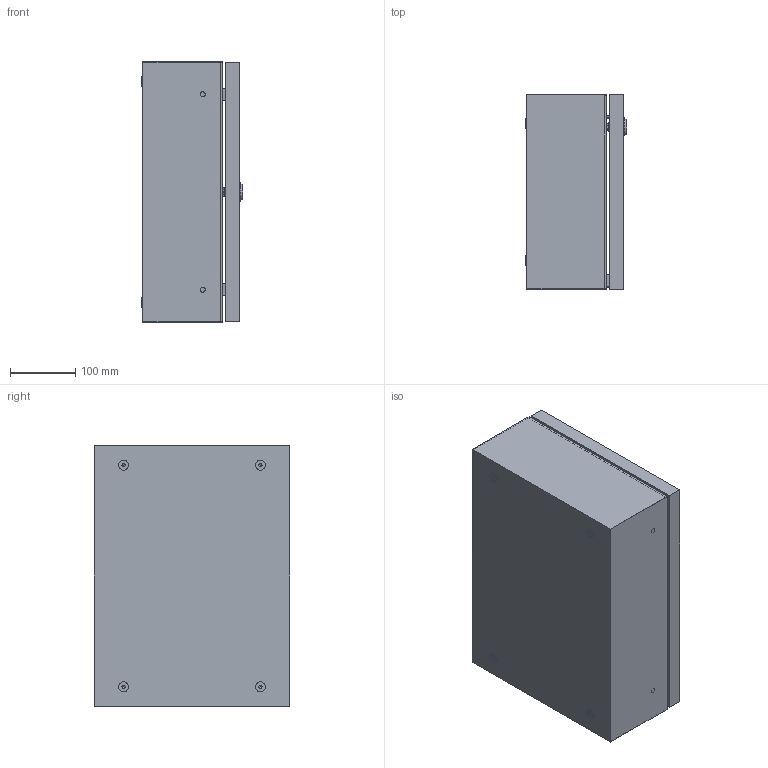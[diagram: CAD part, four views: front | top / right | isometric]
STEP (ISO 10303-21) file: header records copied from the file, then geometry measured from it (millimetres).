
FILE_DESCRIPTION(/* description */ ('Unknown'),/* implementation_level */ '2;1');
FILE_NAME(/* name */ 'CCA03004015',/* time_stamp */ '2024-07-25T15:47:05+02:00',/* author */ ('Unknown'),/* organization */ ('Unknown'),/* preprocessor_version */ 'ST-DEVELOPER v19.4',/* originating_system */ 'Solid Edge',/* authorisation */ 'Unknown');
FILE_SCHEMA (('AUTOMOTIVE_DESIGN {1 0 10303 214 3 1 1}'));
Length unit declared in the file: millimetre
Products named in the file (16): CCA03004015; C000X000.13_oa_0; C000X000.14_oa_1; C0000000.30; C0000000.02; AE00989.09; AE00198.02; AE00417.01; C000X004.80_oa_2; C0000003.87; C0000000.04; C0000000.05; AE00316.01; AE00601.01; AE00891.02; C0000000.01
Assembly tree (34 placements, depth 4):
  CCA03004015
    C000X000.13_oa_0
      C000X000.14_oa_1
        C0000000.30
      C0000000.02  x2
      AE00989.09
      AE00198.02  x2
      AE00417.01  x2
    AE00198.02  x2
    C000X004.80_oa_2
      C0000003.87
      C0000000.04  x4
      C0000000.05  x4
      AE00316.01  x2
      AE00601.01  x2
      AE00891.02  x2
      C0000000.01  x2
      AE00417.01  x4
Bounding box: 155 x 300 x 400 mm (x, y, z)
Volume: 1106333.9 mm3; surface area: 1017449.3 mm2
Topology: 33 solids, 33 shells, 512 faces, 1213 edges, 793 vertices
Faces by surface type: plane 333, cylinder 117, cone 34, torus 28
Full cylindrical faces by diameter (mm): 4 x1, 4.917 x5, 4.918 x2, 5.4 x2, 6 x14, 6.4 x2, 7.5 x6, 8 x4, 8.376 x8, 10 x5, 10.25 x4, 10.5 x4, 11 x2, 13.6 x1, 14 x2, 15 x4, 16 x2, 16.3 x1, 19.5 x1, 28 x1
Entity records: 11391 total; most frequent: CARTESIAN_POINT 1749, DIRECTION 1680, ORIENTED_EDGE 1540, EDGE_CURVE 770, AXIS2_PLACEMENT_3D 568, LINE 544, VECTOR 544, VERTEX_POINT 528
